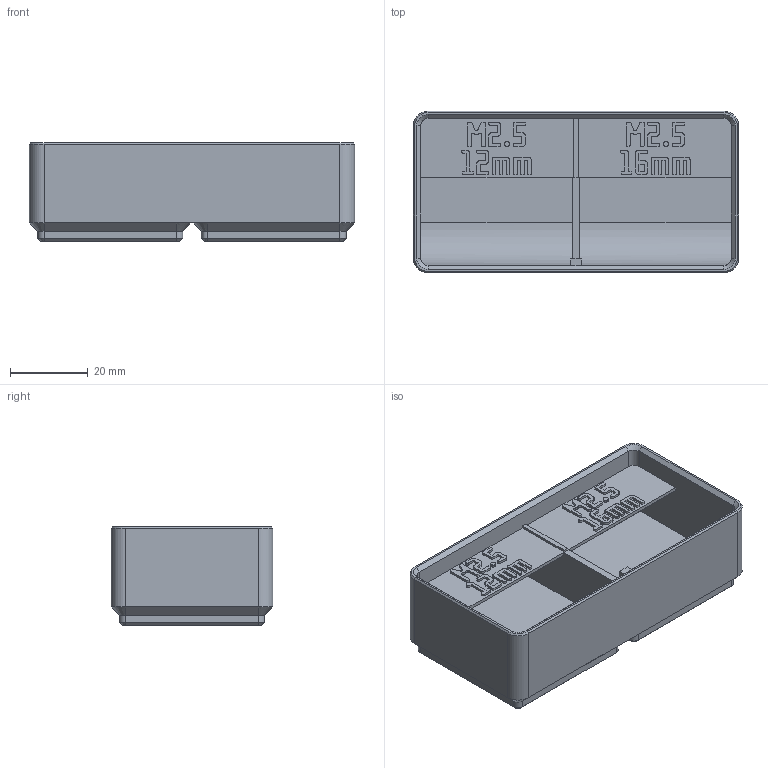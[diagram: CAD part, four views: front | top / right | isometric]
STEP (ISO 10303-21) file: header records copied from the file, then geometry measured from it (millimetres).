
FILE_DESCRIPTION(('Open CASCADE Model'),'2;1');
FILE_NAME('Open CASCADE Shape Model','2026-11-03T16:31:35',('Author'),( 'Open CASCADE'),'Open CASCADE STEP processor 8.0','build123d', 'Unknown');
FILE_SCHEMA(('AUTOMOTIVE_DESIGN { 1 0 10303 214 1 1 1 1 }'));
Products named in the file (1): COMPOUND
Bounding box: 83.5 x 41.5 x 25.4 mm (x, y, z)
Volume: 38772.7 mm3; surface area: 18929.6 mm2
Topology: 1 solids, 1 shells, 1609 faces, 4703 edges, 3114 vertices
Faces by surface type: plane 1567, cone 24, cylinder 18
Entity records: 110394 total; most frequent: CARTESIAN_POINT 22301, DIRECTION 14215, LINE 10867, VECTOR 10867, ORIENTED_EDGE 9406, PCURVE 9406, DEFINITIONAL_REPRESENTATION 9406, EDGE_CURVE 4703
